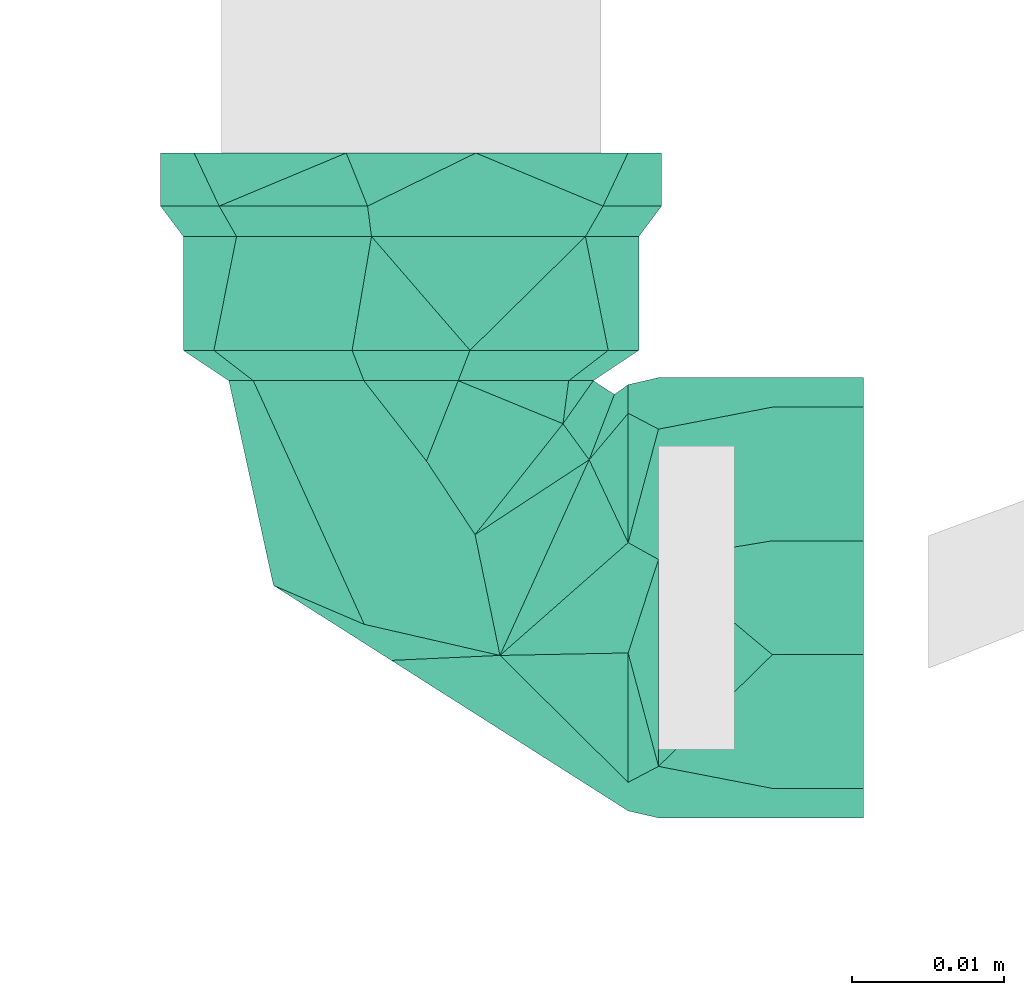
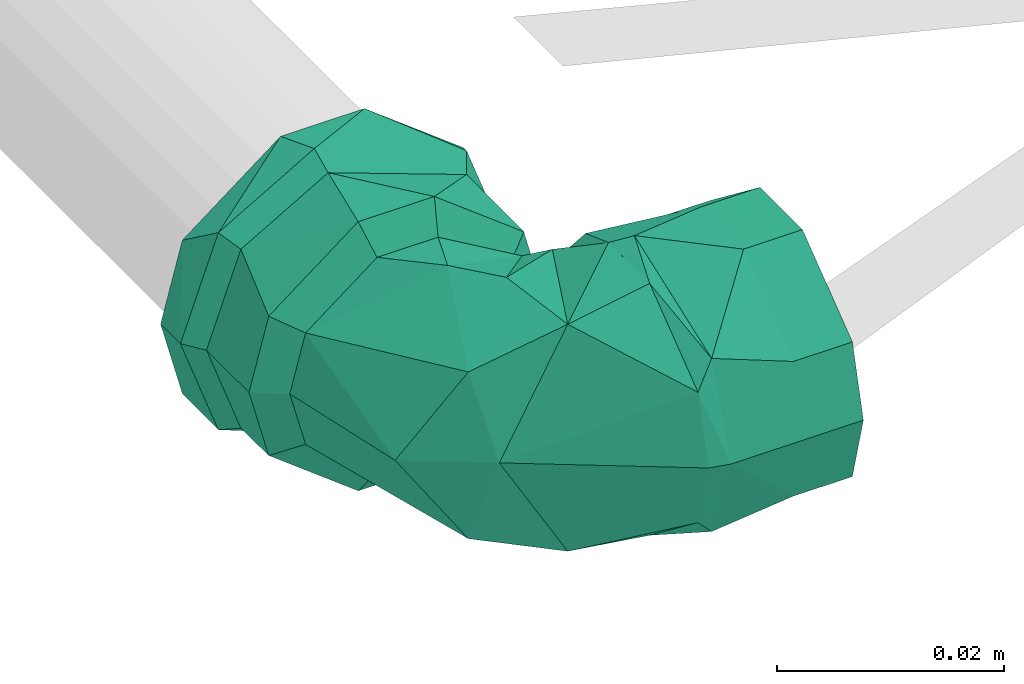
# One storey, part 378 of 589: 1 flow fitting.
"""IFC2X3 building model written with IfcOpenShell, lengths in millimetres."""

from ifc_helpers import new_model, entity, si_unit, converted_unit, derived_unit, direction, frame, origin, place, context, subcontext, project, spatial, faceted_brep, source, transform, mapped, material, type_object, type_shapes, element, save


model = new_model("IFC2X3")

# Units and contexts
model_context = context("Model", 3, precision=0.01, world=origin(), true_north=direction((6.123031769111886e-17, 1.0)))
body_context = subcontext(model_context, "Body", "Model", "MODEL_VIEW")
ifc_project = project(units=[si_unit("LENGTHUNIT", "METRE", prefix="MILLI"), si_unit("AREAUNIT", "SQUARE_METRE"), si_unit("VOLUMEUNIT", "CUBIC_METRE"), converted_unit("PLANEANGLEUNIT", "DEGREE", entity("IfcRatioMeasure", 0.017453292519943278), si_unit("PLANEANGLEUNIT", "RADIAN"), dimensions=[0, 0, 0, 0, 0, 0, 0]), si_unit("MASSUNIT", "GRAM", prefix="KILO"), derived_unit("MASSDENSITYUNIT", [(si_unit("MASSUNIT", "GRAM", prefix="KILO"), 1), (si_unit("LENGTHUNIT", "METRE"), -3)]), derived_unit("IONCONCENTRATIONUNIT", [(si_unit("MASSUNIT", "GRAM", prefix="KILO"), 1), (si_unit("LENGTHUNIT", "METRE"), -3)]), derived_unit("MOMENTOFINERTIAUNIT", [(si_unit("LENGTHUNIT", "METRE"), 4)]), si_unit("TIMEUNIT", "SECOND"), si_unit("FREQUENCYUNIT", "HERTZ"), si_unit("THERMODYNAMICTEMPERATUREUNIT", "DEGREE_CELSIUS"), derived_unit("THERMALTRANSMITTANCEUNIT", [(si_unit("MASSUNIT", "GRAM", prefix="KILO"), 1), (si_unit("THERMODYNAMICTEMPERATUREUNIT", "KELVIN"), -1), (si_unit("TIMEUNIT", "SECOND"), -3)]), derived_unit("THERMALCONDUCTANCEUNIT", [(si_unit("MASSUNIT", "GRAM", prefix="KILO"), 1), (si_unit("THERMODYNAMICTEMPERATUREUNIT", "KELVIN"), -1), (si_unit("TIMEUNIT", "SECOND"), -3), (si_unit("LENGTHUNIT", "METRE"), 1)]), derived_unit("VOLUMETRICFLOWRATEUNIT", [(si_unit("LENGTHUNIT", "METRE"), 3), (si_unit("TIMEUNIT", "SECOND"), -1)]), derived_unit("MASSFLOWRATEUNIT", [(si_unit("MASSUNIT", "GRAM", prefix="KILO"), 1), (si_unit("TIMEUNIT", "SECOND"), -1)]), derived_unit("ROTATIONALFREQUENCYUNIT", [(si_unit("TIMEUNIT", "SECOND"), -1)]), si_unit("ELECTRICCURRENTUNIT", "AMPERE"), si_unit("ELECTRICVOLTAGEUNIT", "VOLT"), si_unit("POWERUNIT", "WATT"), si_unit("FORCEUNIT", "NEWTON", prefix="KILO"), si_unit("ILLUMINANCEUNIT", "LUX"), si_unit("LUMINOUSFLUXUNIT", "LUMEN"), si_unit("LUMINOUSINTENSITYUNIT", "CANDELA"), derived_unit("USERDEFINED", [(si_unit("MASSUNIT", "GRAM", prefix="KILO"), -1), (si_unit("LENGTHUNIT", "METRE"), -2), (si_unit("TIMEUNIT", "SECOND"), 3), (si_unit("LUMINOUSFLUXUNIT", "LUMEN"), 1)]), derived_unit("USERDEFINED", [(si_unit("MASSUNIT", "GRAM", prefix="KILO"), 1), (si_unit("TIMEUNIT", "SECOND"), -3), (si_unit("LENGTHUNIT", "METRE"), 3), (si_unit("ELECTRICCURRENTUNIT", "AMPERE"), -2)]), derived_unit("SOUNDPOWERUNIT", [(si_unit("MASSUNIT", "GRAM", prefix="KILO"), 1), (si_unit("TIMEUNIT", "SECOND"), -3), (si_unit("LENGTHUNIT", "METRE"), 2)]), derived_unit("SOUNDPRESSUREUNIT", [(si_unit("MASSUNIT", "GRAM", prefix="KILO"), 1), (si_unit("LENGTHUNIT", "METRE"), -1), (si_unit("TIMEUNIT", "SECOND"), -2)]), derived_unit("LINEARVELOCITYUNIT", [(si_unit("LENGTHUNIT", "METRE"), 1), (si_unit("TIMEUNIT", "SECOND"), -1)]), si_unit("PRESSUREUNIT", "PASCAL"), derived_unit("USERDEFINED", [(si_unit("MASSUNIT", "GRAM", prefix="KILO"), 1), (si_unit("LENGTHUNIT", "METRE"), -2), (si_unit("TIMEUNIT", "SECOND"), -2)]), derived_unit("LINEARFORCEUNIT", [(si_unit("MASSUNIT", "GRAM", prefix="KILO"), 1), (si_unit("TIMEUNIT", "SECOND"), -2)]), derived_unit("PLANARFORCEUNIT", [(si_unit("MASSUNIT", "GRAM", prefix="KILO"), 1), (si_unit("LENGTHUNIT", "METRE"), -1), (si_unit("TIMEUNIT", "SECOND"), -2)]), derived_unit("SPECIFICHEATCAPACITYUNIT", [(si_unit("THERMODYNAMICTEMPERATUREUNIT", "KELVIN"), -1), (si_unit("LENGTHUNIT", "METRE"), 2), (si_unit("TIMEUNIT", "SECOND"), -2)]), derived_unit("HEATINGVALUEUNIT", [(si_unit("LENGTHUNIT", "METRE"), 2), (si_unit("TIMEUNIT", "SECOND"), -2)]), derived_unit("VAPORPERMEABILITYUNIT", [(si_unit("LENGTHUNIT", "METRE"), -1), (si_unit("TIMEUNIT", "SECOND"), 1)]), derived_unit("DYNAMICVISCOSITYUNIT", [(si_unit("MASSUNIT", "GRAM", prefix="KILO"), 1), (si_unit("TIMEUNIT", "SECOND"), -1), (si_unit("LENGTHUNIT", "METRE"), -1)]), derived_unit("THERMALEXPANSIONCOEFFICIENTUNIT", [(si_unit("THERMODYNAMICTEMPERATUREUNIT", "KELVIN"), -1)]), derived_unit("MODULUSOFELASTICITYUNIT", [(si_unit("MASSUNIT", "GRAM", prefix="KILO"), 1), (si_unit("LENGTHUNIT", "METRE"), -1), (si_unit("TIMEUNIT", "SECOND"), -2)]), derived_unit("ISOTHERMALMOISTURECAPACITYUNIT", [(si_unit("LENGTHUNIT", "METRE"), 3), (si_unit("MASSUNIT", "GRAM", prefix="KILO"), -1)]), derived_unit("MOISTUREDIFFUSIVITYUNIT", [(si_unit("TIMEUNIT", "SECOND"), -1), (si_unit("LENGTHUNIT", "METRE"), 2)])], contexts=[model_context])

# Site, building, storey
site_placement = place(None, origin())
site = spatial("IfcSite", under=ifc_project, at=site_placement, Name="Default", CompositionType="ELEMENT")
building_placement = place(site_placement, origin())
building = spatial("IfcBuilding", under=site, at=building_placement, CompositionType="ELEMENT")
storey_placement = place(building_placement, frame((0.0, 0.0, 100.0)))
storey = spatial("IfcBuildingStorey", under=building, at=storey_placement, Name="TÉRREO", CompositionType="ELEMENT", Elevation=100.0)

# Flow fitting
ifc_material = material(Name="PVC Azul")
pipe_fitting_type = type_object("IfcPipeFittingType", Name="PVC Marrom Soldável_Joelho 90° Azul com Bucha de Latão_Rodrigo MEP:Joelho_20x1/2''_ 25x1/2''_ 25x3/4'' _ 32x3/4''", PredefinedType="NOTDEFINED", material=ifc_material)
shared_shape = source(origin(), body_context, "Body", "Brep", [
    faceted_brep([(-16.299999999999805, 3.235238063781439, -12.074072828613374), (-16.299999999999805, -3.2352380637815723, -12.074072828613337), (-16.299999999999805, -3.8822856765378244, -14.488887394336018), (-16.299999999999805, 3.882285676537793, -14.48888739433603), (-16.299999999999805, 10.82531754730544, -6.250000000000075), (-16.299999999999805, -12.990381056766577, -7.499999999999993), (-16.299999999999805, -10.825317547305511, -6.249999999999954), (-16.299999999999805, -12.5, 0.0), (-16.299999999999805, -15.0, 0.0), (-16.299999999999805, -10.825317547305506, 6.249999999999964), (-16.299999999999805, -12.990381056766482, 7.500000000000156), (-16.299999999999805, -3.2352380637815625, 12.074072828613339), (-16.299999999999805, -3.8822856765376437, 14.488887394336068), (-16.299999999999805, 3.23523806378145, 12.07407282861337), (-16.299999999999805, 3.8822856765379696, 14.488887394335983), (-16.299999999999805, 10.825317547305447, 6.250000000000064), (-16.299999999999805, 12.99038105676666, 7.4999999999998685), (-16.299999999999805, 15.0, 0.0), (-16.299999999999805, 12.5, 0.0), (-16.299999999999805, 12.990381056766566, -7.500000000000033), (-23.799999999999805, 15.0, 0.0), (-23.80000000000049, 11.490129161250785, 9.64245465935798), (-23.800000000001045, -2.606781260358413, 14.771753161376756), (-23.800000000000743, -11.492547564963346, 9.63957211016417), (-23.799999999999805, -15.0, 0.0), (-23.79999999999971, -11.49254756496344, -9.639572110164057), (-23.7999999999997, 2.603075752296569, -14.772406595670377), (-23.799999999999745, 11.490129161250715, -9.642454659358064), (-29.2999999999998, -12.5, 0.0), (-29.2999999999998, -10.825317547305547, 6.249999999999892), (-29.2999999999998, -3.235238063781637, 12.074072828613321), (-29.2999999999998, 3.2352380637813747, 12.07407282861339), (-29.2999999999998, 10.825317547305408, 6.250000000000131), (-29.2999999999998, 12.5, 0.0), (-29.2999999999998, 10.82531754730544, -6.250000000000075), (-29.2999999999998, 3.2352380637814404, -12.074072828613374), (-29.2999999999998, -3.2352380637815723, -12.074072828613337), (-29.2999999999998, -10.825317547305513, -6.249999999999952), (-25.800000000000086, -12.639142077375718, 10.606700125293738), (-25.799999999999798, -16.499999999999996, 0.0), (-25.800000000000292, -2.86338332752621, 16.24964725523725), (-25.800000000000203, 12.641802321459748, 10.603529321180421), (-25.799999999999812, 16.499999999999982, 0.0), (-25.7999999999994, 12.641802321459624, -10.603529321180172), (-25.799999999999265, 2.8674593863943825, -16.248928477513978), (-25.7999999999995, -12.639142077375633, -10.606700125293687), (-29.2999999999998, -4.270514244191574, -15.937776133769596), (-29.2999999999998, -14.289419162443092, -8.250000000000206), (-29.2999999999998, 4.270514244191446, -15.937776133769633), (-29.2999999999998, -16.499999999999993, 0.0), (-29.2999999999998, -14.289419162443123, 8.24999999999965), (-29.2999999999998, -4.270514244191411, 15.93777613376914), (-29.2999999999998, 4.270514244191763, 15.937776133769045), (-29.2999999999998, 14.28941916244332, 8.249999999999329), (-29.2999999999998, 16.500000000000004, 0.0), (-29.2999999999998, 14.289419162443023, -8.250000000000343)], [[[0, 1, 2]], [[2, 3, 0]], [[4, 0, 3]], [[5, 2, 1]], [[1, 6, 5]], [[6, 7, 5]], [[8, 5, 7]], [[8, 7, 9]], [[10, 8, 9]], [[9, 11, 10]], [[11, 12, 10]], [[13, 12, 11]], [[12, 13, 14]], [[13, 15, 14]], [[16, 14, 15]], [[16, 15, 17]], [[17, 15, 18]], [[18, 4, 19]], [[17, 18, 19]], [[3, 19, 4]], [[20, 21, 16]], [[20, 16, 17]], [[16, 21, 14]], [[21, 22, 14]], [[12, 22, 23]], [[10, 23, 24]], [[23, 10, 12]], [[10, 24, 8]], [[22, 12, 14]], [[24, 25, 5]], [[24, 5, 8]], [[5, 25, 2]], [[25, 26, 2]], [[3, 26, 27]], [[19, 27, 20]], [[27, 19, 3]], [[19, 20, 17]], [[26, 3, 2]], [[9, 7, 28, 29]], [[11, 9, 29, 30]], [[30, 31, 13, 11]], [[15, 13, 31, 32]], [[18, 15, 32, 33]], [[4, 18, 33, 34]], [[0, 4, 34, 35]], [[35, 36, 1, 0]], [[6, 1, 36, 37]], [[7, 6, 37, 28]], [[23, 22, 38]], [[24, 23, 39]], [[39, 23, 38]], [[22, 40, 38]], [[21, 20, 41]], [[41, 40, 21]], [[42, 41, 20]], [[21, 40, 22]], [[20, 27, 43]], [[43, 42, 20]], [[44, 43, 27]], [[27, 26, 44]], [[25, 24, 39]], [[25, 45, 26]], [[45, 25, 39]], [[26, 45, 44]], [[46, 36, 35]], [[36, 46, 47]], [[35, 48, 46]], [[47, 37, 36]], [[47, 28, 37]], [[28, 47, 49]], [[29, 28, 49]], [[29, 49, 50]], [[50, 30, 29]], [[50, 51, 30]], [[30, 51, 31]], [[52, 31, 51]], [[52, 32, 31]], [[32, 52, 53]], [[54, 32, 53]], [[33, 32, 54]], [[55, 33, 54]], [[55, 34, 33]], [[34, 55, 48]], [[48, 35, 34]], [[54, 53, 42]], [[53, 41, 42]], [[41, 53, 52]], [[41, 52, 40]], [[38, 51, 50]], [[39, 50, 49]], [[51, 38, 40]], [[38, 50, 39]], [[51, 40, 52]], [[49, 47, 39]], [[47, 45, 39]], [[45, 47, 46]], [[45, 46, 44]], [[43, 48, 55]], [[42, 55, 54]], [[48, 43, 44]], [[43, 55, 42]], [[48, 44, 46]]]),
    faceted_brep([(-16.299999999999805, 3.8822856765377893, 14.48888739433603), (-16.299999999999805, 12.990381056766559, 7.500000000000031), (-16.299999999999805, 15.0, 0.0), (-16.299999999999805, 12.99038105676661, -7.49999999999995), (-16.299999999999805, 3.882285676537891, -14.488887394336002), (-16.299999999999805, -3.882285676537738, -14.48888739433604), (-16.299999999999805, -12.990381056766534, -7.5000000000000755), (-16.299999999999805, -15.0, 0.0), (-16.299999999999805, -12.990381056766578, 7.49999999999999), (-16.299999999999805, -3.8822856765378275, 14.488887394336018), (-14.299999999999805, -3.1058285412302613, 11.591109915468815), (-14.299999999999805, -10.392304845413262, 6.0), (-14.299999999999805, -12.0, 0.0), (-14.299999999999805, -10.392304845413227, -6.0), (-14.299999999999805, -3.1058285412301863, -11.591109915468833), (-14.299999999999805, 3.1058285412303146, -11.591109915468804), (-14.299999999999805, 10.392304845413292, -6.0), (-14.299999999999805, 12.0, 0.0), (-14.299999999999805, 10.39230484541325, 6.0), (-14.299999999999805, 3.105828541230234, 11.591109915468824)], [[[0, 1, 2, 3, 4, 5, 6, 7, 8, 9]], [[10, 11, 12, 13, 14, 15, 16, 17, 18, 19]], [[16, 15, 4, 3]], [[17, 16, 3, 2]], [[15, 14, 5, 4]], [[13, 12, 7, 6]], [[14, 13, 6, 5]], [[11, 10, 9, 8]], [[12, 11, 8, 7]], [[10, 19, 0, 9]], [[18, 17, 2, 1]], [[19, 18, 1, 0]]]),
    faceted_brep([(-3.6338193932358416, 14.30000000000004, 13.561598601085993), (-12.158996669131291, 14.30000000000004, 7.019999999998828), (-14.040000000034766, 14.30000000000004, 0.0), (-12.158996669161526, 14.30000000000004, -7.02000000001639), (-3.6338193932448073, 14.30000000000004, -13.561598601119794), (3.6338193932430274, 14.30000000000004, -13.56159860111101), (12.158996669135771, 14.30000000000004, -7.020000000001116), (14.03999999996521, 14.30000000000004, 0.0), (12.158996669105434, 14.30000000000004, 7.0199999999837), (3.6338193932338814, 14.30000000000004, 13.561598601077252), (11.107509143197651, 16.29999999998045, -9.32058156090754), (14.499999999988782, 16.300000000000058, 0.0), (2.5174840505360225, 16.299999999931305, -14.279785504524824), (-11.108117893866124, 16.29999999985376, -9.319856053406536), (-14.50000000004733, 16.299999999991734, 0.0), (-11.108117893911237, 16.30000000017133, 9.319856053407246), (-2.518416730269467, 16.30000000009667, 14.279621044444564), (11.107509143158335, 16.300000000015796, 9.320581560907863), (14.499999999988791, 23.800000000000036, 0.0), (14.499999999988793, 25.80000000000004, 0.0), (14.499999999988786, 29.80000000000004, 0.0), (12.557368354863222, 29.80000000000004, 7.2499999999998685), (12.557368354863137, 25.80000000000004, 7.250000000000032), (12.557368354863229, 23.800000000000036, 7.2499999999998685), (3.7528761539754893, 23.800000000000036, 14.005924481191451), (-3.752876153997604, 23.800000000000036, 14.005924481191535), (-12.557368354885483, 23.800000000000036, 7.250000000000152), (-12.557368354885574, 25.80000000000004, 7.24999999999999), (-12.557368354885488, 29.80000000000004, 7.250000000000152), (-14.500000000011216, 29.80000000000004, 0.0), (-14.500000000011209, 25.80000000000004, 0.0), (-14.50000000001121, 23.800000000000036, 0.0), (-12.55736835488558, 29.80000000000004, -7.249999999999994), (-12.557368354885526, 25.80000000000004, -7.250000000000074), (-12.557368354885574, 23.800000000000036, -7.249999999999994), (-3.7528761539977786, 23.800000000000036, -14.005924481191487), (3.7528761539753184, 23.800000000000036, -14.005924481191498), (12.557368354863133, 23.800000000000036, -7.250000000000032), (12.557368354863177, 25.80000000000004, -7.249999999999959), (12.557368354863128, 29.80000000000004, -7.250000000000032), (-3.7528761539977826, 25.80000000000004, 14.005924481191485), (-3.7528761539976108, 29.80000000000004, 14.005924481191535), (3.75287615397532, 25.80000000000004, 14.005924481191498), (3.752876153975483, 29.80000000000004, 14.005924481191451), (3.752876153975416, 25.80000000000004, -14.005924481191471), (3.7528761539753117, 29.80000000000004, -14.005924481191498), (-3.7528761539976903, 25.80000000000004, -14.00592448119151), (-3.7528761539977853, 29.80000000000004, -14.005924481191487), (-2.588190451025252, 29.80000000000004, -9.659258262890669), (2.5881904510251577, 29.80000000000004, -9.659258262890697), (-8.660254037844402, 29.80000000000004, -5.0), (-10.0, 29.80000000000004, 0.0), (-8.660254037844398, 29.80000000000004, 5.0), (-2.5881904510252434, 29.80000000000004, 9.659258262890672), (2.5881904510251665, 29.80000000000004, 9.659258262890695), (8.660254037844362, 29.80000000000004, 5.0), (10.0, 29.80000000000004, 0.0), (8.660254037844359, 29.80000000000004, -5.0), (-8.66025403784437, 16.300000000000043, -5.0), (-10.0, 16.300000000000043, 0.0), (-8.660254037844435, 16.300000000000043, 5.0), (-2.588190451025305, 16.30000000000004, 9.659258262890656), (2.5881904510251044, 16.30000000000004, 9.659258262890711), (8.66025403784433, 16.300000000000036, 5.0), (10.0, 16.300000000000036, 0.0), (8.660254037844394, 16.300000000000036, -5.0), (2.5881904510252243, 16.30000000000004, -9.65925826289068), (-2.5881904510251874, 16.30000000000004, -9.659258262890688)], [[[0, 1, 2, 3, 4, 5, 6, 7, 8, 9]], [[6, 5, 10]], [[7, 6, 11]], [[11, 6, 10]], [[5, 12, 10]], [[13, 4, 3]], [[14, 3, 2]], [[13, 12, 4]], [[14, 13, 3]], [[4, 12, 5]], [[1, 0, 15]], [[2, 1, 14]], [[14, 1, 15]], [[0, 16, 15]], [[17, 9, 8]], [[11, 8, 7]], [[17, 16, 9]], [[11, 17, 8]], [[9, 16, 0]], [[18, 19, 20, 21, 22, 23, 11]], [[23, 17, 11]], [[17, 23, 24]], [[17, 24, 16]], [[15, 25, 26]], [[14, 26, 27, 28, 29, 30, 31]], [[15, 16, 25]], [[14, 15, 26]], [[25, 16, 24]], [[31, 30, 29, 32, 33, 34, 14]], [[34, 13, 14]], [[13, 34, 35]], [[13, 35, 12]], [[10, 36, 37]], [[11, 37, 38, 39, 20, 19, 18]], [[36, 10, 12]], [[10, 37, 11]], [[36, 12, 35]], [[40, 41, 28, 27, 26, 25]], [[25, 24, 42, 43, 41, 40]], [[42, 24, 23, 22, 21, 43]], [[44, 45, 39, 38, 37, 36]], [[36, 35, 46, 47, 45, 44]], [[46, 35, 34, 33, 32, 47]], [[47, 48, 49]], [[48, 47, 32]], [[49, 45, 47]], [[32, 50, 48]], [[32, 51, 50]], [[51, 32, 29]], [[52, 51, 29]], [[52, 29, 28]], [[28, 53, 52]], [[28, 41, 53]], [[53, 41, 54]], [[43, 54, 41]], [[43, 55, 54]], [[55, 43, 21]], [[20, 55, 21]], [[56, 55, 20]], [[39, 56, 20]], [[39, 57, 56]], [[57, 39, 45]], [[45, 49, 57]], [[58, 59, 60, 61, 62, 63, 64, 65, 66, 67]], [[60, 59, 51, 52]], [[61, 60, 52, 53]], [[53, 54, 62, 61]], [[63, 62, 54, 55]], [[64, 63, 55, 56]], [[65, 64, 56, 57]], [[66, 65, 57, 49]], [[49, 48, 67, 66]], [[58, 67, 48, 50]], [[59, 58, 50, 51]]]),
    faceted_brep([(3.6336082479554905, 14.299999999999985, 13.560930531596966), (12.158417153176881, 14.299999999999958, 7.019533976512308), (14.040000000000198, 14.299999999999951, 0.0), (12.158417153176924, 14.299999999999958, -7.019533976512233), (3.6336082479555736, 14.299999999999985, -13.560930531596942), (-3.6330882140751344, 14.300000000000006, -13.560629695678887), (-12.144722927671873, 14.300000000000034, -7.0140387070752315), (-14.0399999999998, 14.30000000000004, 0.0), (-12.144722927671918, 14.300000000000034, 7.014038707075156), (-3.633088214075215, 14.300000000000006, 13.560629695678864), (-14.299999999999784, 3.105203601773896, 11.590281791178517), (-14.299999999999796, 10.380105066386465, 5.994904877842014), (-14.299999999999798, 12.0, 0.0), (-14.299999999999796, 10.380105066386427, -5.994904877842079), (-14.299999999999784, 3.1052036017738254, -11.590281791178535), (-14.299999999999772, -3.1056480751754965, -11.590538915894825), (-14.29999999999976, -10.391809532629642, -5.999601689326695), (-14.299999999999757, -12.0, 0.0), (-14.29999999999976, -10.391809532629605, 5.999601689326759), (-14.299999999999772, -3.105648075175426, 11.590538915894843), (-0.8105717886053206, -9.064122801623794, 0.0), (-9.090981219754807, 11.731982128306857, -10.425761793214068), (-13.394903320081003, 13.394903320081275, 0.0), (-11.466277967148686, 10.008512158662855, -8.88261610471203), (1.7500986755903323, -3.082862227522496, -8.976245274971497), (-9.007808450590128, 1.0153371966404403, -12.492335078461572), (4.124727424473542, -1.2995101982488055, 0.0), (3.7986718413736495, 5.857563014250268, -12.221235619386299), (-4.160364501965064, 4.216463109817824, -13.023603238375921), (-11.466278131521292, 10.008512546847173, 8.882615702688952), (-9.007808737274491, 1.015337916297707, 12.492335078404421), (-9.090981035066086, 11.731981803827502, 10.425761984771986), (-4.1603660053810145, 4.216464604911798, 13.023603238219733), (1.750097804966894, -3.0828625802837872, 8.976245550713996), (3.7986705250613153, 5.857564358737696, 12.22123648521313)], [[[0, 1, 2, 3, 4, 5, 6, 7, 8, 9]], [[10, 11, 12, 13, 14, 15, 16, 17, 18, 19]], [[20, 17, 16]], [[21, 22, 6]], [[23, 14, 13]], [[24, 16, 25]], [[24, 26, 20]], [[21, 5, 27]], [[24, 28, 27]], [[16, 24, 20]], [[15, 25, 16]], [[24, 25, 28]], [[14, 25, 15]], [[27, 3, 26]], [[3, 2, 26]], [[12, 22, 23]], [[23, 28, 25]], [[24, 27, 26]], [[23, 21, 28]], [[22, 7, 6]], [[23, 25, 14]], [[5, 21, 6]], [[4, 27, 5]], [[27, 28, 21]], [[13, 12, 23]], [[3, 27, 4]], [[22, 21, 23]], [[12, 11, 29]], [[29, 22, 12]], [[30, 19, 18]], [[30, 29, 10]], [[7, 22, 8]], [[22, 31, 8]], [[32, 30, 33]], [[29, 31, 22]], [[10, 29, 11]], [[30, 32, 29]], [[19, 30, 10]], [[9, 8, 31]], [[26, 2, 1]], [[18, 17, 20]], [[20, 33, 18]], [[34, 32, 33]], [[33, 20, 26]], [[0, 34, 1]], [[34, 31, 32]], [[34, 26, 1]], [[31, 34, 9]], [[34, 33, 26]], [[33, 30, 18]], [[9, 34, 0]], [[32, 31, 29]]]),
])
type_shapes(pipe_fitting_type, [shared_shape])
flow_fitting_placement = place(storey_placement, frame((431.8423921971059, -5897.531283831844, 600.0), z_axis=(0.0, 0.0, 1.0), x_axis=(0.0, -1.0, 0.0)))
element("IfcFlowFitting", 1, at=flow_fitting_placement, inside=storey, type_object=pipe_fitting_type, material=ifc_material, Name="PVC Marrom Soldável_Joelho 90° Azul com Bucha de Latão_Rodrigo MEP:Joelho_20x1/2''_ 25x1/2''_ 25x3/4'' _ 32x3/4''", ObjectType="PVC Marrom Soldável_Joelho 90° Azul com Bucha de Latão_Rodrigo MEP:Joelho_20x1/2''_ 25x1/2''_ 25x3/4'' _ 32x3/4''", context=body_context, shape_type="MappedRepresentation", body=[
    mapped(shared_shape, transform((0.0, 0.0, 0.0), scale=1.0)),
])

save(model, "model.ifc")
